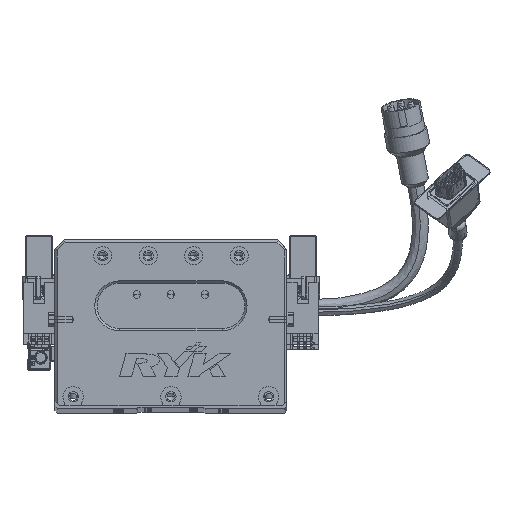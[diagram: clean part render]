
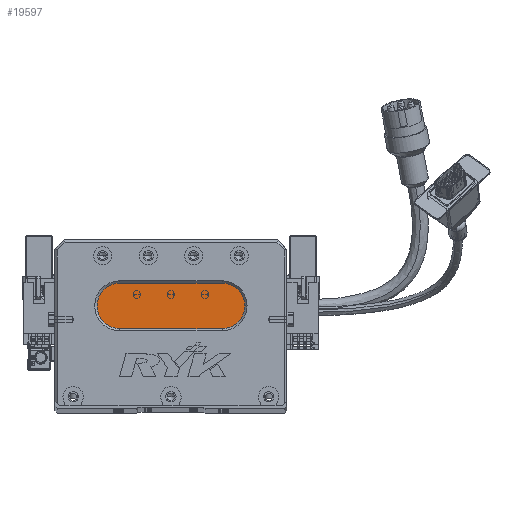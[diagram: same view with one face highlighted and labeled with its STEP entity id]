
A CAD part, top view. The second image highlights one B-rep face of the part: STEP entity #19597.
In plain terms, the highlighted planar face has unit normal (0, 0, 1) as drawn and (0, 0, -1) by its records, which use the part's own axes.
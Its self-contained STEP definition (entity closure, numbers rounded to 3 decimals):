
#1502 = DIRECTION ( 'NONE',  ( 0., 0., -1. ) ) ;
#6733 = EDGE_CURVE ( 'NONE', #8460, #36972, #51403, .T. ) ;
#7060 = CARTESIAN_POINT ( 'NONE',  ( 73.5, 44., 13. ) ) ;
#7694 = VERTEX_POINT ( 'NONE', #69624 ) ;
#8460 = VERTEX_POINT ( 'NONE', #9247 ) ;
#9247 = CARTESIAN_POINT ( 'NONE',  ( 28.5, 34., 13. ) ) ;
#9623 = DIRECTION ( 'NONE',  ( 0., 0., -1. ) ) ;
#12647 = PLANE ( 'NONE',  #27616 ) ;
#13156 = DIRECTION ( 'NONE',  ( -1., 0., 0. ) ) ;
#13545 = EDGE_CURVE ( 'NONE', #69877, #7694, #25005, .T. ) ;
#13830 = ORIENTED_EDGE ( 'NONE', *, *, #23570, .T. ) ;
#15037 = CARTESIAN_POINT ( 'NONE',  ( 28.5, 54., 13. ) ) ;
#17997 = ORIENTED_EDGE ( 'NONE', *, *, #58952, .T. ) ;
#19597 = ADVANCED_FACE ( 'NONE', ( #35486 ), #12647, .T. ) ;
#21903 = ORIENTED_EDGE ( 'NONE', *, *, #6733, .T. ) ;
#23570 = EDGE_CURVE ( 'NONE', #36972, #44967, #67351, .T. ) ;
#25005 = CIRCLE ( 'NONE', #52116, 10. ) ;
#26010 = AXIS2_PLACEMENT_3D ( 'NONE', #64094, #42247, #41995 ) ;
#27595 = CARTESIAN_POINT ( 'NONE',  ( 18.5, 44., 13. ) ) ;
#27616 = AXIS2_PLACEMENT_3D ( 'NONE', #51971, #35138, #41957 ) ;
#29077 = ORIENTED_EDGE ( 'NONE', *, *, #13545, .T. ) ;
#31784 = DIRECTION ( 'NONE',  ( 1., 0., 0. ) ) ;
#33632 = VECTOR ( 'NONE', #13156, 1000. ) ;
#35138 = DIRECTION ( 'NONE',  ( 0., 0., -1. ) ) ;
#35486 = FACE_OUTER_BOUND ( 'NONE', #36754, .T. ) ;
#36030 = AXIS2_PLACEMENT_3D ( 'NONE', #65659, #9623, #43539 ) ;
#36754 = EDGE_LOOP ( 'NONE', ( #29077, #17997, #21903, #13830, #70694 ) ) ;
#36972 = VERTEX_POINT ( 'NONE', #27595 ) ;
#40207 = EDGE_CURVE ( 'NONE', #44967, #69877, #48132, .T. ) ;
#40518 = DIRECTION ( 'NONE',  ( -1., 0., 0. ) ) ;
#41131 = VECTOR ( 'NONE', #31784, 1000. ) ;
#41957 = DIRECTION ( 'NONE',  ( -1., 0., 0. ) ) ;
#41995 = DIRECTION ( 'NONE',  ( -1., 0., 0. ) ) ;
#42247 = DIRECTION ( 'NONE',  ( 0., 0., -1. ) ) ;
#43539 = DIRECTION ( 'NONE',  ( -1., 0., 0. ) ) ;
#44967 = VERTEX_POINT ( 'NONE', #15037 ) ;
#46865 = CARTESIAN_POINT ( 'NONE',  ( 73.5, 34., 13. ) ) ;
#48132 = LINE ( 'NONE', #60001, #41131 ) ;
#51403 = CIRCLE ( 'NONE', #36030, 10. ) ;
#51971 = CARTESIAN_POINT ( 'NONE',  ( 73.5, 44., 13. ) ) ;
#52116 = AXIS2_PLACEMENT_3D ( 'NONE', #7060, #1502, #40518 ) ;
#53611 = CARTESIAN_POINT ( 'NONE',  ( 73.5, 54., 13. ) ) ;
#58015 = LINE ( 'NONE', #46865, #33632 ) ;
#58952 = EDGE_CURVE ( 'NONE', #7694, #8460, #58015, .T. ) ;
#60001 = CARTESIAN_POINT ( 'NONE',  ( 73.5, 54., 13. ) ) ;
#64094 = CARTESIAN_POINT ( 'NONE',  ( 28.5, 44., 13. ) ) ;
#65659 = CARTESIAN_POINT ( 'NONE',  ( 28.5, 44., 13. ) ) ;
#67351 = CIRCLE ( 'NONE', #26010, 10. ) ;
#69624 = CARTESIAN_POINT ( 'NONE',  ( 73.5, 34., 13. ) ) ;
#69877 = VERTEX_POINT ( 'NONE', #53611 ) ;
#70694 = ORIENTED_EDGE ( 'NONE', *, *, #40207, .T. ) ;
